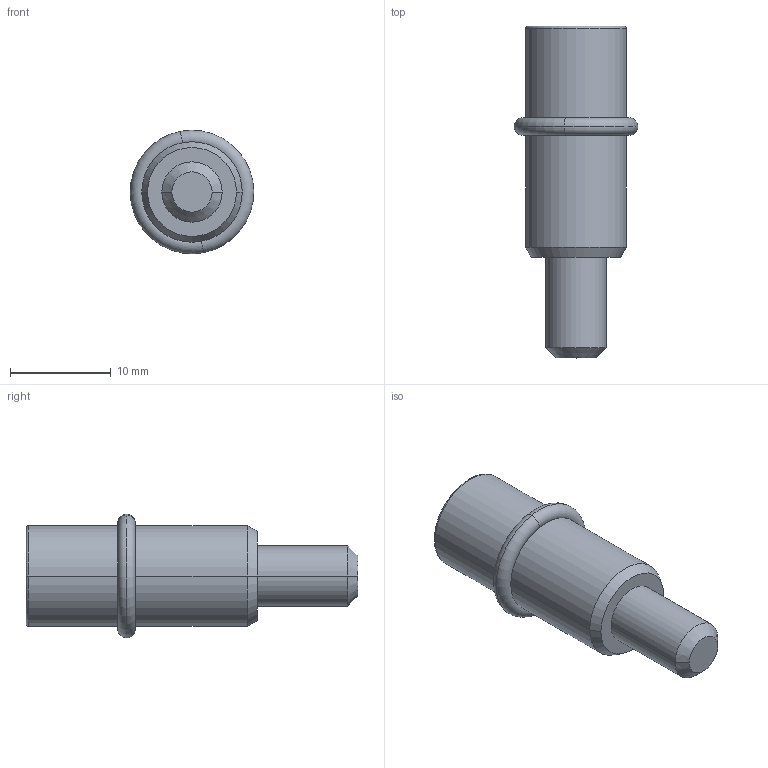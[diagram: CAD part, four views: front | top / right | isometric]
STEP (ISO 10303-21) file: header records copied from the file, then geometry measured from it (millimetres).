
FILE_DESCRIPTION (( 'STEP AP203' ), '1' );
FILE_NAME ('013.100.015.STEP', '2020-11-09T08:49:40', ( '' ), ( '' ), 'SwSTEP 2.0', 'SolidWorks 2018', '' );
FILE_SCHEMA (( 'CONFIG_CONTROL_DESIGN' ));
Length unit declared in the file: millimetre
Products named in the file (3): 013.100.015; 013.100.015A; GUARNIZIONI OR_OR 108
Assembly tree (2 placements, depth 2):
  013.100.015
    013.100.015A
    GUARNIZIONI OR_OR 108
Bounding box: 12.29 x 33 x 12.29 mm (x, y, z)
Volume: 1991.3 mm3; surface area: 1357.4 mm2
Topology: 2 solids, 2 shells, 30 faces, 62 edges, 38 vertices
Faces by surface type: plane 12, cylinder 8, torus 6, cone 4
Entity records: 1107 total; most frequent: DIRECTION 164, CARTESIAN_POINT 135, ORIENTED_EDGE 124, AXIS2_PLACEMENT_3D 67, EDGE_CURVE 62, VERTEX_POINT 38, EDGE_LOOP 34, CIRCLE 32
